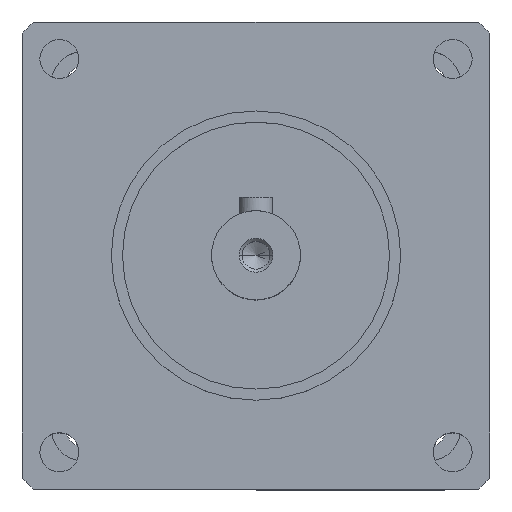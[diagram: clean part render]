
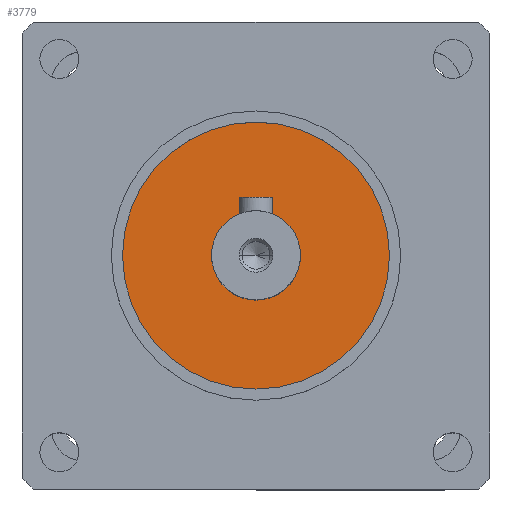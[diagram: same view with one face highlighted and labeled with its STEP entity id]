
A CAD part, top view. The second image highlights one B-rep face of the part: STEP entity #3779.
In plain terms, the highlighted planar face has unit normal (0, 0, 1).
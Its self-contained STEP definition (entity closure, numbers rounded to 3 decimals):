
#69 = DIRECTION ( 'NONE',  ( 1., 0., 0. ) ) ;
#117 = CIRCLE ( 'NONE', #454, 4. ) ;
#140 = CARTESIAN_POINT ( 'NONE',  ( 0., 0., 7.2 ) ) ;
#454 = AXIS2_PLACEMENT_3D ( 'NONE', #3418, #6672, #4383 ) ;
#800 = ORIENTED_EDGE ( 'NONE', *, *, #3425, .F. ) ;
#867 = FACE_BOUND ( 'NONE', #3285, .T. ) ;
#909 = DIRECTION ( 'NONE',  ( 0., 0., 1. ) ) ;
#1072 = CARTESIAN_POINT ( 'NONE',  ( 4., 0., 7.2 ) ) ;
#1420 = CARTESIAN_POINT ( 'NONE',  ( 0., 0., 7.2 ) ) ;
#1683 = DIRECTION ( 'NONE',  ( 0., 0., -1. ) ) ;
#1715 = DIRECTION ( 'NONE',  ( 1., 0., 0. ) ) ;
#1867 = EDGE_CURVE ( 'NONE', #1889, #4413, #5347, .T. ) ;
#1889 = VERTEX_POINT ( 'NONE', #7086 ) ;
#2195 = CARTESIAN_POINT ( 'NONE',  ( 0., 0., 7.2 ) ) ;
#2386 = AXIS2_PLACEMENT_3D ( 'NONE', #2195, #1683, #69 ) ;
#2534 = CARTESIAN_POINT ( 'NONE',  ( 0., 0., 7.2 ) ) ;
#2560 = PLANE ( 'NONE',  #3977 ) ;
#2950 = CIRCLE ( 'NONE', #6828, 4. ) ;
#3093 = VERTEX_POINT ( 'NONE', #1072 ) ;
#3112 = CARTESIAN_POINT ( 'NONE',  ( -12., 0., 7.2 ) ) ;
#3126 = EDGE_CURVE ( 'NONE', #4413, #1889, #6148, .T. ) ;
#3285 = EDGE_LOOP ( 'NONE', ( #800, #5343 ) ) ;
#3418 = CARTESIAN_POINT ( 'NONE',  ( 0., 0., 7.2 ) ) ;
#3425 = EDGE_CURVE ( 'NONE', #4697, #3093, #2950, .T. ) ;
#3633 = DIRECTION ( 'NONE',  ( 0., 0., 1. ) ) ;
#3779 = ADVANCED_FACE ( 'NONE', ( #867, #4194 ), #2560, .T. ) ;
#3844 = DIRECTION ( 'NONE',  ( 0., 0., -1. ) ) ;
#3967 = AXIS2_PLACEMENT_3D ( 'NONE', #140, #3844, #1715 ) ;
#3977 = AXIS2_PLACEMENT_3D ( 'NONE', #1420, #909, #6312 ) ;
#4194 = FACE_OUTER_BOUND ( 'NONE', #4993, .T. ) ;
#4383 = DIRECTION ( 'NONE',  ( 1., 0., 0. ) ) ;
#4413 = VERTEX_POINT ( 'NONE', #3112 ) ;
#4697 = VERTEX_POINT ( 'NONE', #5711 ) ;
#4993 = EDGE_LOOP ( 'NONE', ( #6481, #5032 ) ) ;
#5007 = EDGE_CURVE ( 'NONE', #3093, #4697, #117, .T. ) ;
#5032 = ORIENTED_EDGE ( 'NONE', *, *, #1867, .F. ) ;
#5343 = ORIENTED_EDGE ( 'NONE', *, *, #5007, .F. ) ;
#5347 = CIRCLE ( 'NONE', #2386, 12. ) ;
#5711 = CARTESIAN_POINT ( 'NONE',  ( -4., 0., 7.2 ) ) ;
#5818 = DIRECTION ( 'NONE',  ( 1., 0., 0. ) ) ;
#6148 = CIRCLE ( 'NONE', #3967, 12. ) ;
#6312 = DIRECTION ( 'NONE',  ( 1., 0., 0. ) ) ;
#6481 = ORIENTED_EDGE ( 'NONE', *, *, #3126, .F. ) ;
#6672 = DIRECTION ( 'NONE',  ( 0., 0., 1. ) ) ;
#6828 = AXIS2_PLACEMENT_3D ( 'NONE', #2534, #3633, #5818 ) ;
#7086 = CARTESIAN_POINT ( 'NONE',  ( 12., 0., 7.2 ) ) ;
